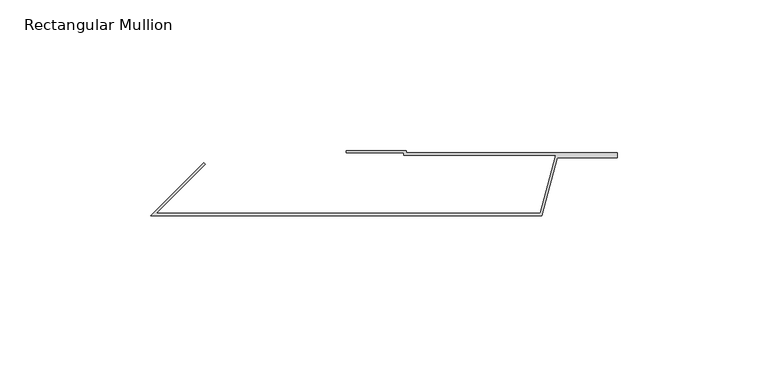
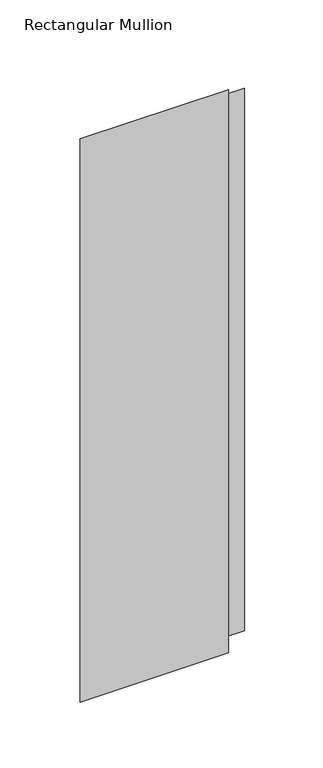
"""IFC4 building model written with IfcOpenShell, lengths in millimetres: member geometry, Rectangular Mullion : TE-V-01_02_Joint flashing."""

from ifc_helpers import new_model, si_unit, origin, place, context, project, spatial, faceted_brep, source, transform, mapped, element, save


def rectangular_mullion_0c125c1a(model_context):
    return source(origin(), model_context, "Body", "Brep", [
        faceted_brep([(0.0, 0.0, -500.0000003), (0.0, -0.8, -500.0000003), (70.1186468, -0.8, -500.0000003), (70.1186468, -2.4, -500.0000003), (50.1763809, -2.4, -500.0000003), (45.0, -21.7185165, -500.0000003), (-85.0, -21.7185165, -500.0000003), (-67.3223305, -4.040847, -500.0000003), (-66.756645, -4.6065324, -500.0000003), (-83.0686292, -20.9185165, -500.0000003), (44.3861384, -20.9185165, -500.0000003), (49.5625193, -1.6, -500.0000003), (-0.8, -1.6, -500.0000003), (-0.8, -0.8, -500.0000003), (-20.0, -0.8, -500.0000003), (-20.0, 0.0, -500.0000003), (-20.0, 0.0, 0.0), (0.0, 0.0, 0.0), (-20.0, -0.8, 0.8), (-0.8, -0.8, 0.8), (-0.8, -1.6, 1.6), (49.5625193, -1.6, 1.6), (44.3861384, -20.9185165, 20.9185165), (-83.0686292, -20.9185165, 20.9185165), (-66.756645, -4.6065324, 4.6065324), (-67.3223305, -4.040847, 4.040847), (-85.0, -21.7185165, 21.7185165), (45.0, -21.7185165, 21.7185165), (50.1763809, -2.4, 2.4), (70.1186468, -2.4, 2.4), (70.1186468, -0.8, 0.8), (0.0, -0.8, 0.8)], [[[0, 1, 2, 3, 4, 5, 6, 7, 8, 9, 10, 11, 12, 13, 14, 15]], [[16, 17, 0, 15]], [[18, 16, 15, 14]], [[19, 18, 14, 13]], [[20, 19, 13, 12]], [[21, 20, 12, 11]], [[22, 21, 11, 10]], [[23, 22, 10, 9]], [[24, 23, 9, 8]], [[25, 24, 8, 7]], [[26, 25, 7, 6]], [[27, 26, 6, 5]], [[28, 27, 5, 4]], [[29, 28, 4, 3]], [[30, 29, 3, 2]], [[31, 30, 2, 1]], [[17, 31, 1, 0]], [[17, 16, 18, 19, 20, 21, 22, 23, 24, 25, 26, 27, 28, 29, 30, 31]]]),
    ])


if __name__ == "__main__":
    model = new_model("IFC4")
    model_context = context("Model", 3, world=origin())
    ifc_project = project(units=[si_unit("LENGTHUNIT", "METRE", prefix="MILLI")], contexts=[model_context])
    site = spatial("IfcSite", under=ifc_project)
    building = spatial("IfcBuilding", under=site)
    placement = place(None, origin())
    rectangular_mullion_shape = rectangular_mullion_0c125c1a(model_context)
    element("IfcMember", 1, ObjectType="Rectangular Mullion : TE-V-01_02_Joint flashing", at=placement, inside=building, context=model_context, shape_type="MappedRepresentation", body=[
        mapped(rectangular_mullion_shape, transform((0.0, 0.0, 0.0), x_axis=(1.0, 0.0, 0.0), y_axis=(0.0, 1.0, 0.0), z_axis=(0.0, 0.0, 1.0))),
    ])
    save(model, "model.ifc")
